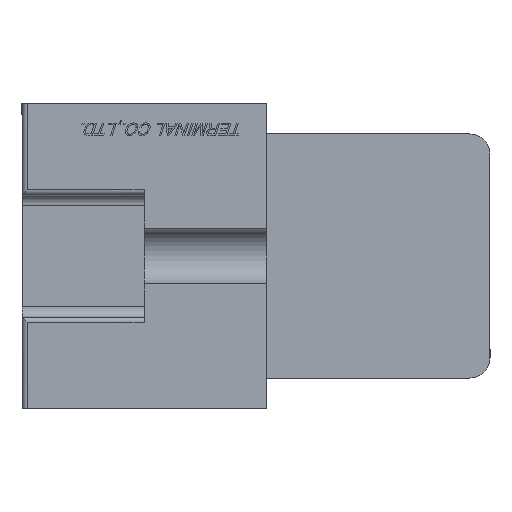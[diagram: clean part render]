
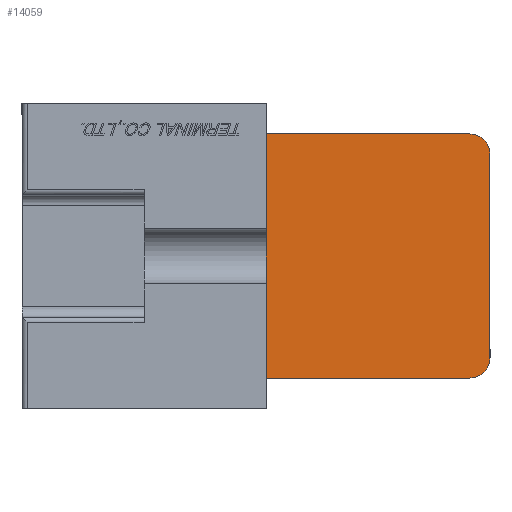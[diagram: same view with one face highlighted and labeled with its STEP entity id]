
A CAD part, left-side view. The second image highlights one B-rep face of the part: STEP entity #14059.
In plain terms, the highlighted planar face has unit normal (-1, 0, 0).
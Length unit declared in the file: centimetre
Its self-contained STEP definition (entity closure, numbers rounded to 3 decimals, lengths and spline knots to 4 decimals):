
#331=CIRCLE('',#26082,0.2);
#333=CIRCLE('',#26086,0.2);
#1742=VERTEX_POINT('',#20069);
#1743=VERTEX_POINT('',#20071);
#1754=VERTEX_POINT('',#20162);
#1755=VERTEX_POINT('',#20166);
#1800=VERTEX_POINT('',#20401);
#1801=VERTEX_POINT('',#20403);
#3302=VECTOR('',#15753,1.);
#3346=VECTOR('',#15894,1.);
#3347=VECTOR('',#15895,1.);
#3348=VECTOR('',#15896,1.);
#4431=LINE('',#20161,#3302);
#4475=LINE('',#20400,#3346);
#4476=LINE('',#20402,#3347);
#4477=LINE('',#20404,#3348);
#5661=EDGE_CURVE('',#1742,#1743,#331,.T.);
#5674=EDGE_CURVE('',#1754,#1743,#4431,.T.);
#5676=EDGE_CURVE('',#1754,#1755,#333,.T.);
#5752=EDGE_CURVE('',#1800,#1742,#4475,.T.);
#5753=EDGE_CURVE('',#1801,#1800,#4476,.T.);
#5754=EDGE_CURVE('',#1801,#1755,#4477,.T.);
#8503=ORIENTED_EDGE('',*,*,#5661,.F.);
#8504=ORIENTED_EDGE('',*,*,#5752,.F.);
#8505=ORIENTED_EDGE('',*,*,#5753,.F.);
#8506=ORIENTED_EDGE('',*,*,#5754,.T.);
#8507=ORIENTED_EDGE('',*,*,#5676,.F.);
#8508=ORIENTED_EDGE('',*,*,#5674,.T.);
#11933=EDGE_LOOP('',(#8503,#8504,#8505,#8506,#8507,#8508));
#13008=FACE_BOUND('',#11933,.T.);
#14059=ADVANCED_FACE('',(#13008),#14869,.T.);
#14869=PLANE('',#26141);
#15740=DIRECTION('',(1.,0.,0.));
#15741=DIRECTION('',(0.,-0.141,0.141));
#15753=DIRECTION('',(0.,0.,1.));
#15757=DIRECTION('',(1.,0.,0.));
#15758=DIRECTION('',(0.,-0.141,-0.141));
#15893=DIRECTION('',(-1.,0.,0.));
#15894=DIRECTION('',(0.,-1.,0.));
#15895=DIRECTION('',(0.,0.,1.));
#15896=DIRECTION('',(0.,-1.,0.));
#20069=CARTESIAN_POINT('',(-4.15,-0.695,1.2));
#20070=CARTESIAN_POINT('',(-4.15,-0.695,1.));
#20071=CARTESIAN_POINT('',(-4.15,-0.895,1.));
#20161=CARTESIAN_POINT('',(-4.15,-0.895,-1.2));
#20162=CARTESIAN_POINT('',(-4.15,-0.895,-1.));
#20165=CARTESIAN_POINT('',(-4.15,-0.695,-1.));
#20166=CARTESIAN_POINT('',(-4.15,-0.695,-1.2));
#20399=CARTESIAN_POINT('',(-4.15,1.305,0.));
#20400=CARTESIAN_POINT('',(-4.15,1.305,1.2));
#20401=CARTESIAN_POINT('',(-4.15,1.305,1.2));
#20402=CARTESIAN_POINT('',(-4.15,1.305,0.));
#20403=CARTESIAN_POINT('',(-4.15,1.305,-1.2));
#20404=CARTESIAN_POINT('',(-4.15,1.305,-1.2));
#26082=AXIS2_PLACEMENT_3D('',#20070,#15740,#15741);
#26086=AXIS2_PLACEMENT_3D('',#20165,#15757,#15758);
#26141=AXIS2_PLACEMENT_3D('',#20399,#15893,$);
